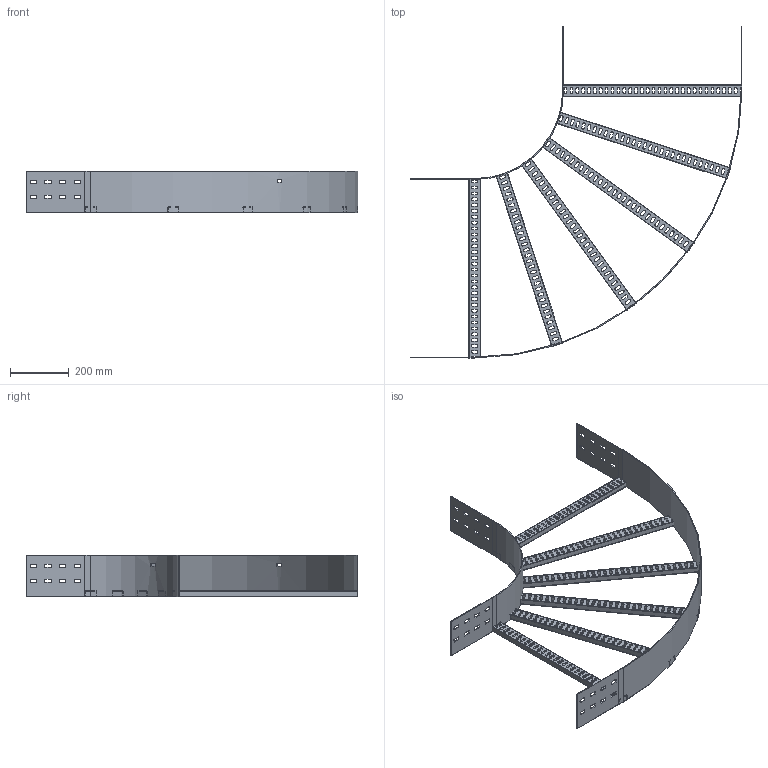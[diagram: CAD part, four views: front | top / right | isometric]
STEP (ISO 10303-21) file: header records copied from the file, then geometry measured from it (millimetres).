
FILE_DESCRIPTION(/* description */ ('','CAx-IF Rec.Pracs.---Representation and Presentation of Product Manufacturing Information (PMI)---4.0---2014-10-13'),/* implementation_level */ '2;1');
FILE_NAME(/* name */ 'Eurostrut_EFB150-600-90-300_Bend 90 for Cable Ladder ECL.step',/* time_stamp */ '2026-09-07T12:15:26+02:00',/* author */ (''),/* organization */ (''),/* preprocessor_version */ 'ST-DEVELOPER v20.1',/* originating_system */ 'Autodesk Revit 2027 27.2.0.39',/* authorisation */ '');
FILE_SCHEMA (('AP242_MANAGED_MODEL_BASED_3D_ENGINEERING_MIM_LF { 1 0 10303 442 2 1 4 }'));
Length unit declared in the file: millimetre
Products named in the file (6): TopLevelAssembly; Sweep; Extrusion; Extrusion_1; Eurostrut_Cable Ladder_Rung_Horizontal Bend_With slots; Eurostrut_Cable Ladder_Accessory End SWEEP
Assembly tree (8 placements, depth 2):
  TopLevelAssembly
    Sweep
    Extrusion
    Extrusion_1
    Eurostrut_Cable Ladder_Rung_Horizontal Bend_With slots
    Eurostrut_Cable Ladder_Accessory End SWEEP  x4
Bounding box: 1131 x 1131 x 142 mm (x, y, z)
Volume: 1609598.9 mm3; surface area: 1431727.2 mm2
Topology: 16 solids, 16 shells, 1048 faces, 3048 edges, 2032 vertices
Faces by surface type: plane 648, bspline 372, cylinder 28
Entity records: 42252 total; most frequent: CARTESIAN_POINT 16924, ORIENTED_EDGE 5448, DIRECTION 4684, EDGE_CURVE 2724, LINE 1916, VECTOR 1916, VERTEX_POINT 1816, AXIS2_PLACEMENT_3D 1384
